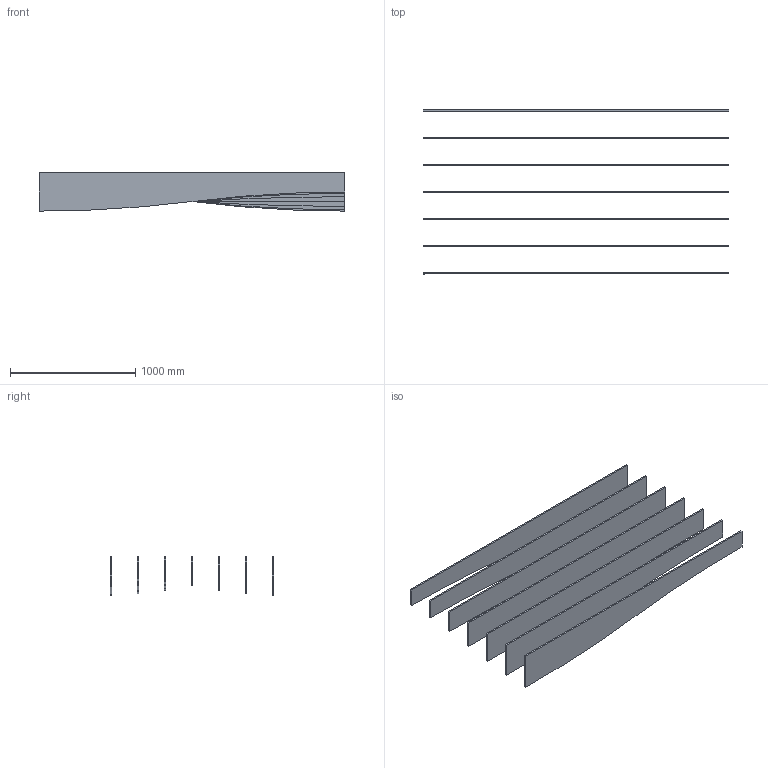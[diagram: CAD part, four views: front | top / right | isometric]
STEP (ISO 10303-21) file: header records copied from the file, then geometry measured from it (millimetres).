
FILE_DESCRIPTION(/* description */ (''),/* implementation_level */ '2;1');
FILE_NAME(/* name */ 'Topo Swell Full Simplified',/* time_stamp */ '2026-04-13T11:33:20-05:00',/* author */ (''),/* organization */ (''),/* preprocessor_version */ 'ST-DEVELOPER v19.2',/* originating_system */ 'Rhino 8.29',/* authorisation */ '');
FILE_SCHEMA (('CONFIG_CONTROL_DESIGN'));
Length unit declared in the file: inch
Products named in the file (1): Document
Bounding box: 2438.4 x 1308.1 x 304.8 mm (x, y, z)
Volume: 49554481.5 mm3; surface area: 8278367.9 mm2
Topology: 7 solids, 7 shells, 48 faces, 102 edges, 68 vertices
Faces by surface type: plane 36, cylinder 12
Entity records: 1297 total; most frequent: CARTESIAN_POINT 346, ORIENTED_EDGE 204, EDGE_CURVE 102, DIRECTION 100, AXIS2_PLACEMENT_3D 74, VERTEX_POINT 68, B_SPLINE_CURVE_WITH_KNOTS 63, ADVANCED_FACE 48
